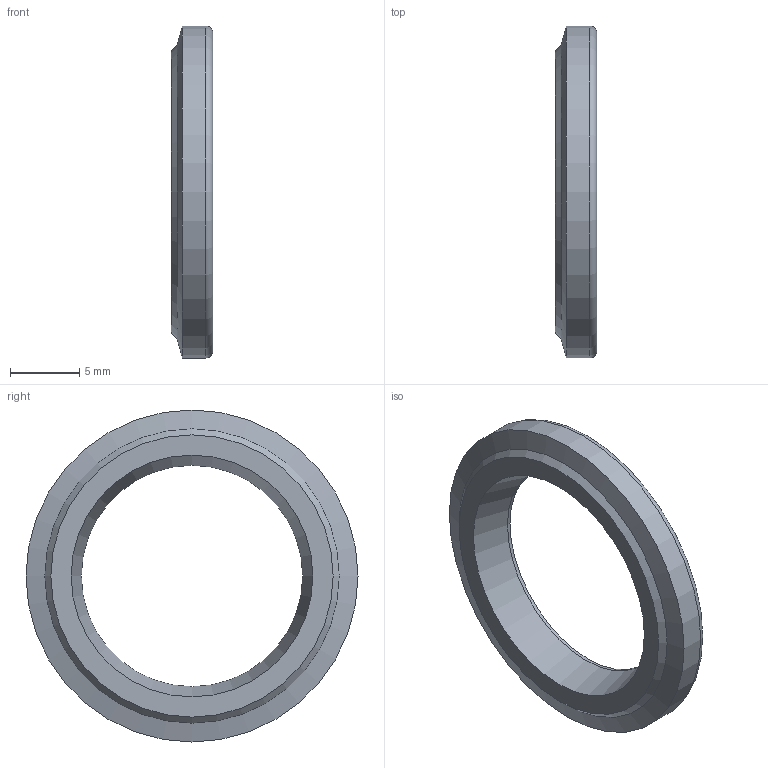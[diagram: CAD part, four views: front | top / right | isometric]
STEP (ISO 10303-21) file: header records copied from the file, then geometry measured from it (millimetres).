
FILE_DESCRIPTION(('STEP AP203'),'1');
FILE_NAME('D:/Desktop/BOSCH CAD/CBX/CBX-16.step','2022-02-17T07:19:28',(' '),(' '),'Spatial InterOp 3D',' ',' ');
FILE_SCHEMA(('CONFIG_CONTROL_DESIGN'));
Length unit declared in the file: millimetre
Products named in the file (1): 1
Bounding box: 3 x 24 x 24 mm (x, y, z)
Volume: 617 mm3; surface area: 839.1 mm2
Topology: 1 solids, 1 shells, 12 faces, 20 edges, 12 vertices
Faces by surface type: cone 4, plane 4, cylinder 3, torus 1
Full cylindrical faces by diameter (mm): 16 x1, 17.8 x1, 24 x1
Entity records: 292 total; most frequent: DIRECTION 50, CARTESIAN_POINT 37, AXIS2_PLACEMENT_3D 25, EDGE_LOOP 24, ORIENTED_EDGE 24, FACE_OUTER_BOUND 16, ADVANCED_FACE 12, EDGE_CURVE 12
